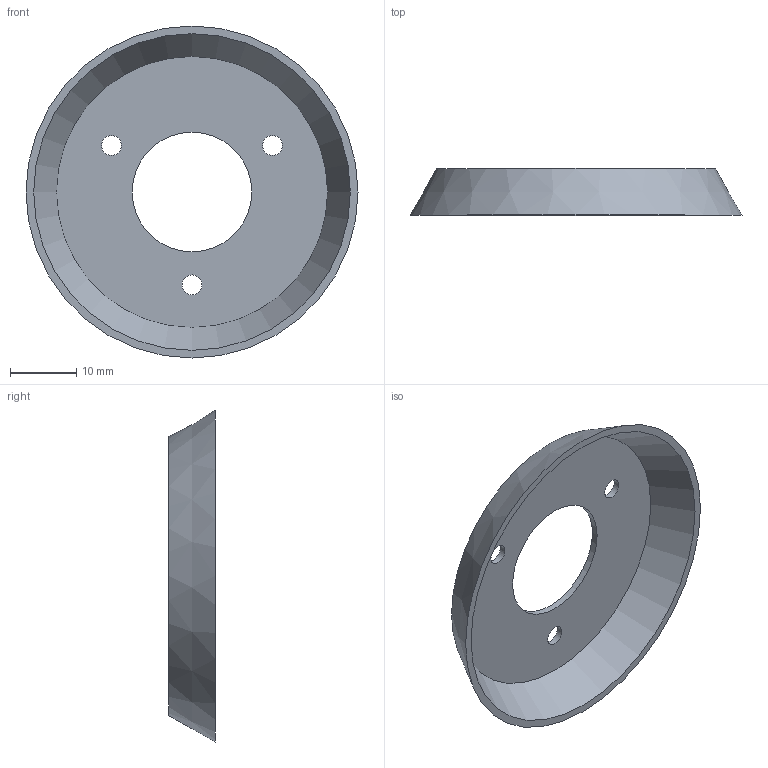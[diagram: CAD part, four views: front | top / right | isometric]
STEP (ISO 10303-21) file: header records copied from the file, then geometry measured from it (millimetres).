
FILE_DESCRIPTION( ( 'STEP AP203' ), '1' );
FILE_NAME( 'C:/Temp/Ganter_Step_05_03_2020/data/1_4/gn_526_1/gn_526_1_b/Scale ring GN 526.1-50-B.stp', '2020-03-05T10:48:53', ( 'License CC BY-ND 4.0' ), ( 'CADENAS' ), ' ', 'PARTsolutions', ' ' );
FILE_SCHEMA( ( 'CONFIG_CONTROL_DESIGN' ) );
Length unit declared in the file: millimetre
Products named in the file (1): _Scale ring GN 526.1-50-B
Bounding box: 50 x 7 x 50 mm (x, y, z)
Volume: 2133.9 mm3; surface area: 4531.8 mm2
Topology: 1 solids, 1 shells, 9 faces, 21 edges, 15 vertices
Faces by surface type: cylinder 4, plane 3, cone 2
Full cylindrical faces by diameter (mm): 3 x3, 18 x1
Entity records: 274 total; most frequent: DIRECTION 44, CARTESIAN_POINT 34, EDGE_LOOP 24, ORIENTED_EDGE 24, AXIS2_PLACEMENT_3D 22, FACE_OUTER_BOUND 13, EDGE_CURVE 12, VERTEX_POINT 12
